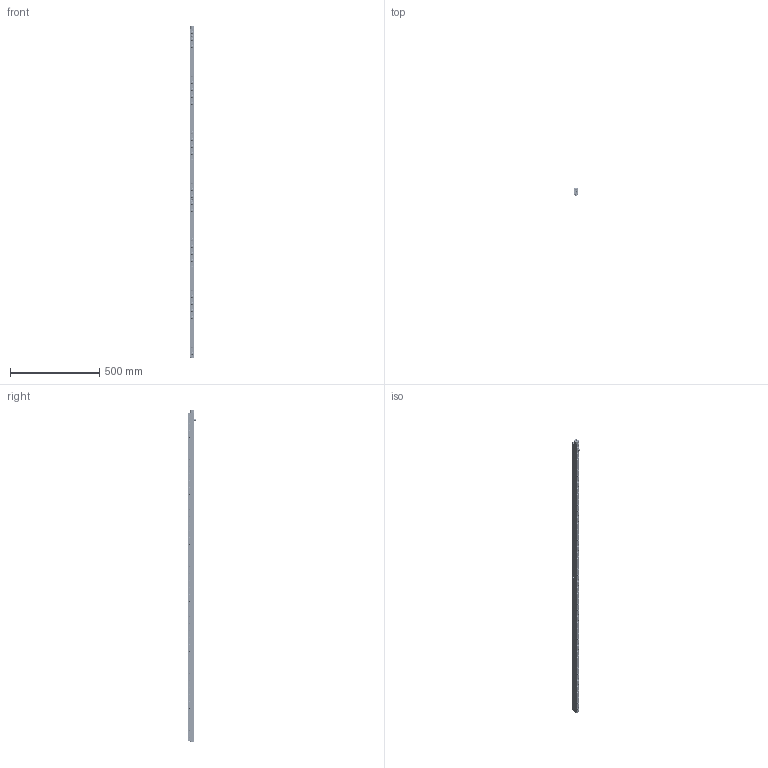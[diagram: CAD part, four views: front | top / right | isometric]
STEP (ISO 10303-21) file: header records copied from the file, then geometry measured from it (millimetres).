
FILE_DESCRIPTION(/* description */ ('EHR22-46'),/* implementation_level */ '2;1');
FILE_NAME(/* name */ 'S:\EASCN Vault\Designs\Standard Part\DIE LIFTERS\EHR\EHR- 3D step\EHR22 - 3D step complete serie\EHR22-46.stp',/* time_stamp */ '2019-10-29T13:24:46+08:00',/* author */ ('yue.yang'),/* organization */ (''),/* preprocessor_version */ 'ST-DEVELOPER v17',/* originating_system */ 'Autodesk Inventor 2019',/* authorisation */ '');
FILE_SCHEMA (('AUTOMOTIVE_DESIGN { 1 0 10303 214 3 1 1 }'));
Products named in the file (2): EHR22-46; EHR22-46_Substitute_1
Assembly tree (1 placements, depth 2):
  EHR22-46
    EHR22-46_Substitute_1
Bounding box: 21.8 x 48.05 x 1862 mm (x, y, z)
Volume: 1144585.8 mm3; surface area: 466544.8 mm2
Topology: 156 solids, 156 shells, 2501 faces, 7046 edges, 4897 vertices
Faces by surface type: cylinder 871, plane 584, cone 530, torus 422, sphere 94
Full cylindrical faces by diameter (mm): 2.459 x16, 3 x9, 3.2 x8, 4 x20, 5 x138, 6 x56, 7.5 x2, 8.566 x1, 10 x11, 11 x46, 12.5 x92, 13.4 x46, 13.8 x46, 15.95 x92, 16 x92
Entity records: 91529 total; most frequent: CARTESIAN_POINT 20461, DIRECTION 15903, ORIENTED_EDGE 13948, AXIS2_PLACEMENT_3D 7099, EDGE_CURVE 6974, VERTEX_POINT 4897, CIRCLE 4595, EDGE_LOOP 2951
